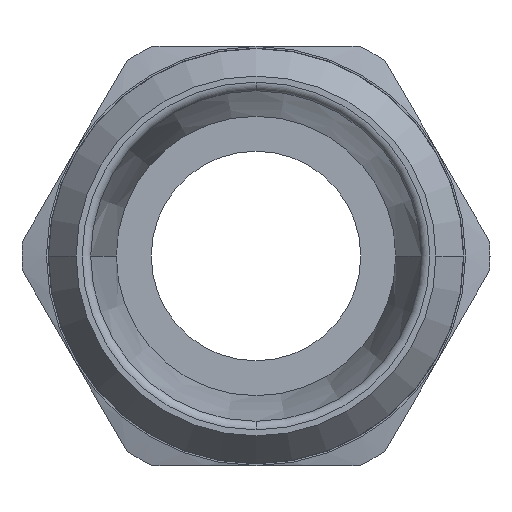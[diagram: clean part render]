
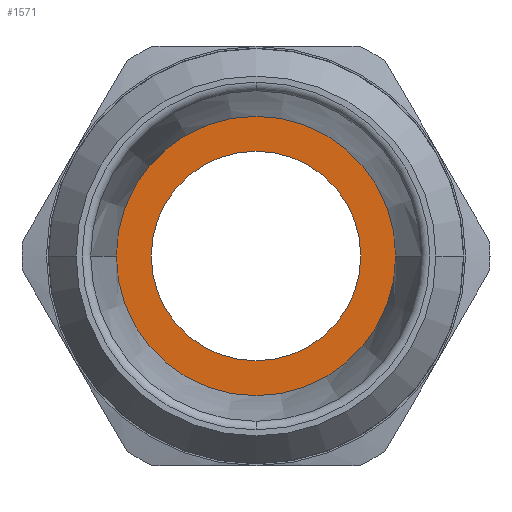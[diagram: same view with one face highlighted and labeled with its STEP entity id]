
A CAD part, left-side view. The second image highlights one B-rep face of the part: STEP entity #1571.
In plain terms, the highlighted planar face has unit normal (-1, 0, 0) as drawn and (0, 0, 1) by its records, which use the part's own axes.
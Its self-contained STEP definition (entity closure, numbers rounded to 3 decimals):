
#718=CARTESIAN_POINT('',(0.,-4.,5.85));
#719=VERTEX_POINT('',#718);
#735=CARTESIAN_POINT('',(0.,4.,5.85));
#736=VERTEX_POINT('',#735);
#743=CARTESIAN_POINT('',(0.,0.,5.85));
#744=DIRECTION('',(0.0,0.0,-1.0));
#745=DIRECTION('',(0.0,-1.0,0.0));
#746=AXIS2_PLACEMENT_3D('',#743,#744,#745);
#747=CIRCLE('',#746,4.0);
#748=EDGE_CURVE('',#736,#719,#747,.T.);
#1207=CARTESIAN_POINT('',(0.,3.,5.85));
#1208=VERTEX_POINT('',#1207);
#1217=CARTESIAN_POINT('',(0.,-3.,5.85));
#1218=VERTEX_POINT('',#1217);
#1219=CARTESIAN_POINT('',(0.,0.,5.85));
#1220=DIRECTION('',(0.0,0.0,-1.0));
#1221=DIRECTION('',(0.0,1.0,0.0));
#1222=AXIS2_PLACEMENT_3D('',#1219,#1220,#1221);
#1223=CIRCLE('',#1222,3.0);
#1224=EDGE_CURVE('',#1218,#1208,#1223,.T.);
#1258=CARTESIAN_POINT('',(0.,0.,5.85));
#1259=DIRECTION('',(0.0,0.0,-1.0));
#1260=DIRECTION('',(0.0,1.0,0.0));
#1261=AXIS2_PLACEMENT_3D('',#1258,#1259,#1260);
#1262=CIRCLE('',#1261,3.0);
#1263=EDGE_CURVE('',#1208,#1218,#1262,.T.);
#1552=CARTESIAN_POINT('',(0.,-2.,5.85));
#1553=DIRECTION('',(0.0,0.0,1.0));
#1554=DIRECTION('',(-1.0,0.0,0.0));
#1555=AXIS2_PLACEMENT_3D('',#1552,#1553,#1554);
#1556=PLANE('',#1555);
#1557=CARTESIAN_POINT('',(0.,0.,5.85));
#1558=DIRECTION('',(0.0,0.0,-1.0));
#1559=DIRECTION('',(0.0,-1.0,0.0));
#1560=AXIS2_PLACEMENT_3D('',#1557,#1558,#1559);
#1561=CIRCLE('',#1560,4.0);
#1562=EDGE_CURVE('',#719,#736,#1561,.T.);
#1563=ORIENTED_EDGE('',*,*,#1562,.F.);
#1564=ORIENTED_EDGE('',*,*,#748,.F.);
#1565=EDGE_LOOP('',(#1563,#1564));
#1566=FACE_OUTER_BOUND('',#1565,.T.);
#1567=ORIENTED_EDGE('',*,*,#1224,.T.);
#1568=ORIENTED_EDGE('',*,*,#1263,.T.);
#1569=EDGE_LOOP('',(#1567,#1568));
#1570=FACE_BOUND('',#1569,.T.);
#1571=ADVANCED_FACE('',(#1566,#1570),#1556,.T.);
